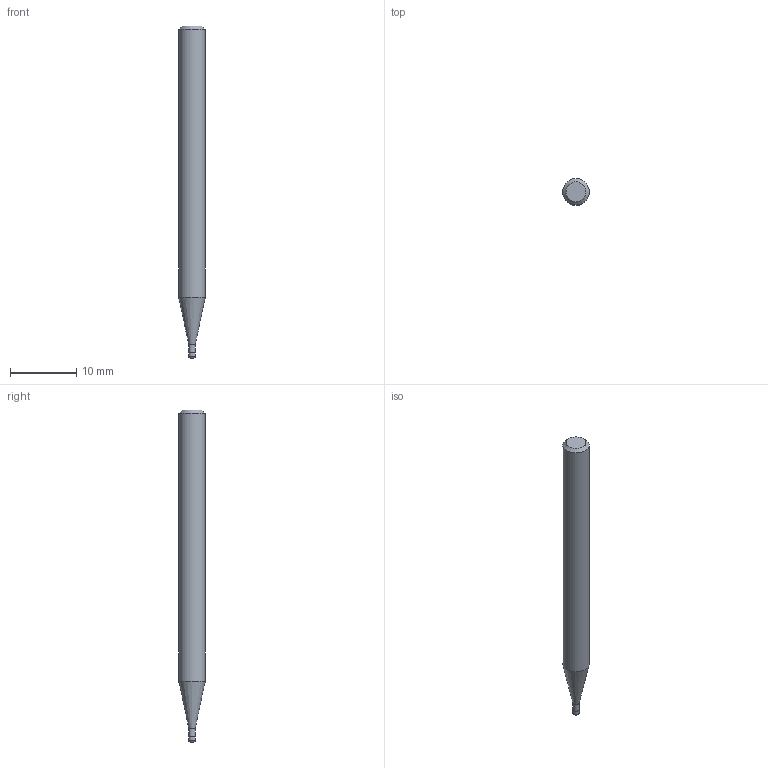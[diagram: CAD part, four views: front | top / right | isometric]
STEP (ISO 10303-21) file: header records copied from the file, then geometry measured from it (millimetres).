
FILE_DESCRIPTION((''),'2;1');
FILE_NAME('C:\Users\nsx150\AppData\Local\Temp\Mastercam 2021\17T8Q8S9EB\TEMP.step','2021-04-21T14:33:45',(''),(''),'STEP Write','Mastercam 2021 ... CNC Software, Inc.','');
FILE_SCHEMA(('AUTOMOTIVE_DESIGN'));
Length unit declared in the file: millimetre
Products named in the file (1): None
Bounding box: 4 x 4 x 50 mm (x, y, z)
Volume: 551.9 mm3; surface area: 586.7 mm2
Topology: 2 solids, 2 shells, 10 faces, 14 edges, 8 vertices
Faces by surface type: plane 4, cylinder 3, cone 2, torus 1
Full cylindrical faces by diameter (mm): 0.95 x1, 1 x1, 4 x1
Entity records: 232 total; most frequent: DIRECTION 40, CARTESIAN_POINT 28, AXIS2_PLACEMENT_3D 20, ORIENTED_EDGE 16, EDGE_LOOP 16, STYLED_ITEM 13, ADVANCED_FACE 10, FACE_BOUND 10
